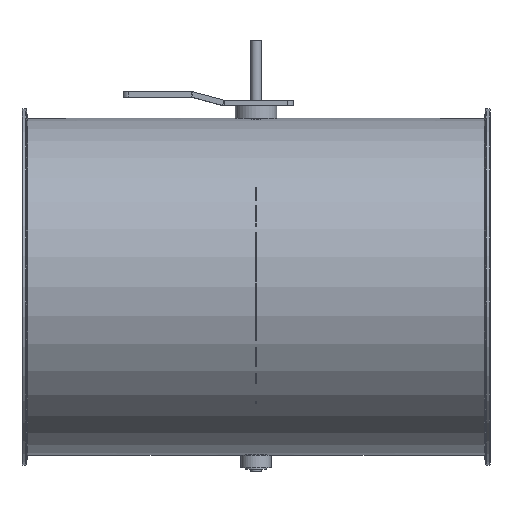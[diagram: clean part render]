
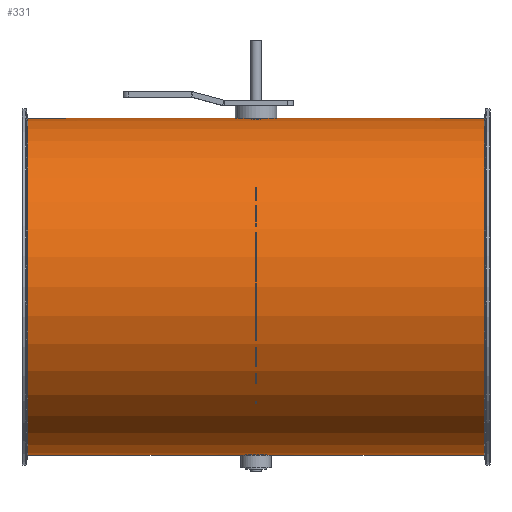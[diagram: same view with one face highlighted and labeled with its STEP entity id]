
A CAD part, top view. The second image highlights one B-rep face of the part: STEP entity #331.
In plain terms, the highlighted cylindrical face has radius 158.3 mm (diameter 316.6 mm), a full revolution.
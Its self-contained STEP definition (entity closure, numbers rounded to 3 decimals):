
#103=B_SPLINE_CURVE_WITH_KNOTS('',3,(#1803,#1804,#1805,#1806,#1807,#1808,
#1809,#1810,#1811,#1812,#1813,#1814,#1815,#1816,#1817,#1818,#1819,#1820),
 .UNSPECIFIED.,.T.,.F.,(2,2,2,2,2,2,2,2,2,2,2),(-0.125,0.,0.125,
0.25,0.375,0.5,0.625,0.75,0.875,1.,
1.125),.UNSPECIFIED.);
#104=B_SPLINE_CURVE_WITH_KNOTS('',3,(#1822,#1823,#1824,#1825,#1826,#1827,
#1828,#1829,#1830,#1831,#1832,#1833,#1834,#1835,#1836,#1837,#1838,#1839),
 .UNSPECIFIED.,.T.,.F.,(2,2,2,2,2,2,2,2,2,2,2),(-0.125,0.,0.125,
0.25,0.375,0.5,0.625,0.75,0.875,1.,
1.125),.UNSPECIFIED.);
#269=CYLINDRICAL_SURFACE('',#1230,158.3);
#331=ADVANCED_FACE('',(#441,#442,#443,#444),#269,.T.);
#441=FACE_BOUND('',#569,.T.);
#442=FACE_BOUND('',#570,.T.);
#443=FACE_BOUND('',#571,.T.);
#444=FACE_BOUND('',#572,.T.);
#569=EDGE_LOOP('',(#787));
#570=EDGE_LOOP('',(#788));
#571=EDGE_LOOP('',(#789));
#572=EDGE_LOOP('',(#790));
#787=ORIENTED_EDGE('',*,*,#1033,.T.);
#788=ORIENTED_EDGE('',*,*,#1034,.F.);
#789=ORIENTED_EDGE('',*,*,#1035,.F.);
#790=ORIENTED_EDGE('',*,*,#1036,.T.);
#919=VERTEX_POINT('',#1802);
#920=VERTEX_POINT('',#1821);
#921=VERTEX_POINT('',#1840);
#922=VERTEX_POINT('',#1842);
#1033=EDGE_CURVE('',#919,#919,#1111,.T.);
#1034=EDGE_CURVE('',#920,#920,#103,.T.);
#1035=EDGE_CURVE('',#921,#921,#104,.T.);
#1036=EDGE_CURVE('',#922,#922,#1112,.T.);
#1111=CIRCLE('',#1228,158.3);
#1112=CIRCLE('',#1229,158.3);
#1228=AXIS2_PLACEMENT_3D('',#1801,#1502,#1503);
#1229=AXIS2_PLACEMENT_3D('',#1841,#1504,#1505);
#1230=AXIS2_PLACEMENT_3D('',#1843,#1506,#1507);
#1502=DIRECTION('',(-1.,0.,0.));
#1503=DIRECTION('',(0.,0.,-1.));
#1504=DIRECTION('',(1.,0.,0.));
#1505=DIRECTION('',(0.,0.,1.));
#1506=DIRECTION('',(1.,0.,0.));
#1507=DIRECTION('',(0.,0.,-1.));
#1801=CARTESIAN_POINT('',(214.804,-51.,125.));
#1802=CARTESIAN_POINT('',(214.804,-51.,-33.3));
#1803=CARTESIAN_POINT('',(2.643,106.984,115.));
#1804=CARTESIAN_POINT('',(-2.643,106.984,115.));
#1805=CARTESIAN_POINT('',(-5.227,107.06,116.085));
#1806=CARTESIAN_POINT('',(-8.916,107.225,119.774));
#1807=CARTESIAN_POINT('',(-9.999,107.3,122.385));
#1808=CARTESIAN_POINT('',(-10.001,107.3,127.604));
#1809=CARTESIAN_POINT('',(-8.941,107.226,130.2));
#1810=CARTESIAN_POINT('',(-5.208,107.059,133.936));
#1811=CARTESIAN_POINT('',(-2.614,106.984,134.999));
#1812=CARTESIAN_POINT('',(2.607,106.984,135.001));
#1813=CARTESIAN_POINT('',(5.219,107.059,133.92));
#1814=CARTESIAN_POINT('',(8.91,107.224,130.236));
#1815=CARTESIAN_POINT('',(9.997,107.3,127.649));
#1816=CARTESIAN_POINT('',(10.003,107.3,122.37));
#1817=CARTESIAN_POINT('',(8.921,107.225,119.782));
#1818=CARTESIAN_POINT('',(5.233,107.06,116.088));
#1819=CARTESIAN_POINT('',(2.643,106.984,115.));
#1820=CARTESIAN_POINT('',(-2.643,106.984,115.));
#1821=CARTESIAN_POINT('',(0.,106.984,115.));
#1822=CARTESIAN_POINT('',(-2.643,-208.984,115.));
#1823=CARTESIAN_POINT('',(2.643,-208.984,115.));
#1824=CARTESIAN_POINT('',(5.227,-209.06,116.085));
#1825=CARTESIAN_POINT('',(8.916,-209.225,119.774));
#1826=CARTESIAN_POINT('',(9.999,-209.3,122.385));
#1827=CARTESIAN_POINT('',(10.001,-209.3,127.604));
#1828=CARTESIAN_POINT('',(8.941,-209.226,130.2));
#1829=CARTESIAN_POINT('',(5.208,-209.059,133.936));
#1830=CARTESIAN_POINT('',(2.614,-208.984,134.999));
#1831=CARTESIAN_POINT('',(-2.607,-208.984,135.001));
#1832=CARTESIAN_POINT('',(-5.219,-209.059,133.92));
#1833=CARTESIAN_POINT('',(-8.91,-209.224,130.236));
#1834=CARTESIAN_POINT('',(-9.997,-209.3,127.649));
#1835=CARTESIAN_POINT('',(-10.003,-209.3,122.37));
#1836=CARTESIAN_POINT('',(-8.921,-209.225,119.782));
#1837=CARTESIAN_POINT('',(-5.233,-209.06,116.088));
#1838=CARTESIAN_POINT('',(-2.643,-208.984,115.));
#1839=CARTESIAN_POINT('',(2.643,-208.984,115.));
#1840=CARTESIAN_POINT('',(0.,-208.984,115.));
#1841=CARTESIAN_POINT('',(-214.804,-51.,125.));
#1842=CARTESIAN_POINT('',(-214.804,-51.,283.3));
#1843=CARTESIAN_POINT('',(-220.,-51.,125.));
